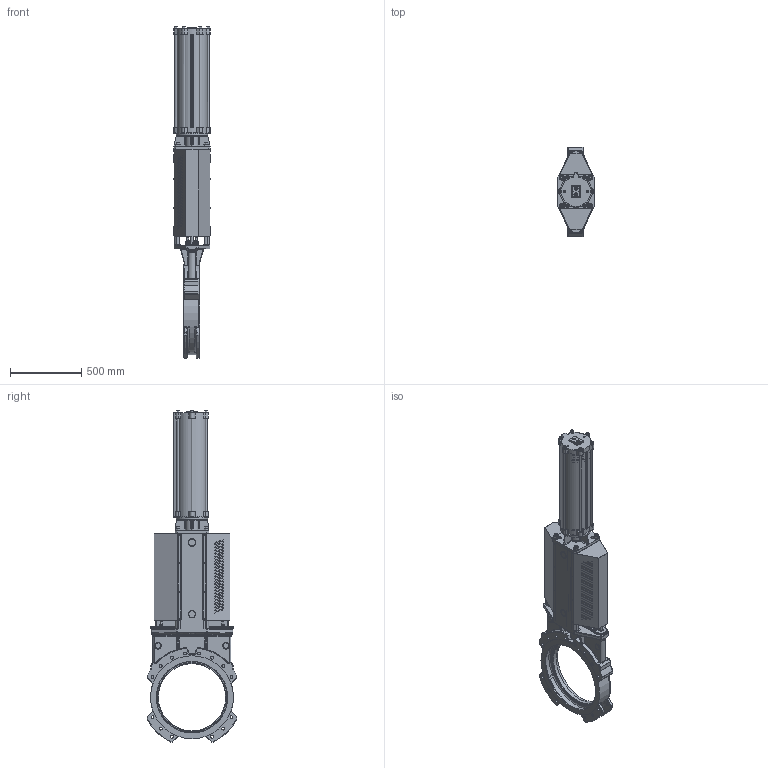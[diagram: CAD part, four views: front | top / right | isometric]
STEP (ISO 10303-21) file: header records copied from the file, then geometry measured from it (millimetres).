
FILE_DESCRIPTION(/* description */ (''),/* implementation_level */ '2;1');
FILE_NAME(/* name */ 'F:\Emir\3D-block special\MV VALVE\PNEUMATIC ACTUATOR\MV-DN500-PN10-FRSC200-550.stp',/* time_stamp */ '2018-05-15T15:05:33+02:00',/* author */ ('emimus'),/* organization */ (''),/* preprocessor_version */ 'ST-DEVELOPER v17',/* originating_system */ 'Autodesk Inventor 2018',/* authorisation */ '');
FILE_SCHEMA (('CONFIG_CONTROL_DESIGN'));
Products named in the file (1): MV-DN500-PN10-FRSC200-550
Bounding box: 258.11 x 625 x 2322.5 mm (x, y, z)
Volume: 36452591.9 mm3; surface area: 7190332.2 mm2
Topology: 1 solids, 1 shells, 4021 faces, 10323 edges, 6431 vertices
Faces by surface type: plane 1413, cylinder 1234, torus 398, bspline 394, cone 358, sphere 224
Full cylindrical faces by diameter (mm): 3.6 x16, 4.2 x16, 4.5 x16, 4.917 x7, 5 x2, 6.647 x4, 7.5 x4, 8.376 x4, 9.5 x2, 10 x9, 10.106 x2, 12 x24, 13 x16, 15 x9, 16 x4, 17 x4, 17.294 x4, 18 x2, 18.631 x4, 20 x12, 20.752 x28, 21 x8, 22.49 x4, 24 x11, 28 x1, 28.5 x2, 33 x1, 36 x2, 37 x4, 40 x10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
Entity records: 137529 total; most frequent: CARTESIAN_POINT 39127, DIRECTION 21061, ORIENTED_EDGE 20546, EDGE_CURVE 10273, AXIS2_PLACEMENT_3D 8477, VERTEX_POINT 6431, EDGE_LOOP 4650, CIRCLE 4560
